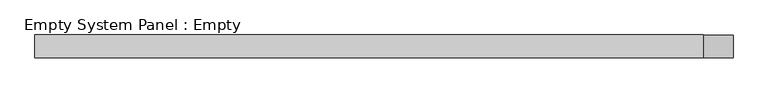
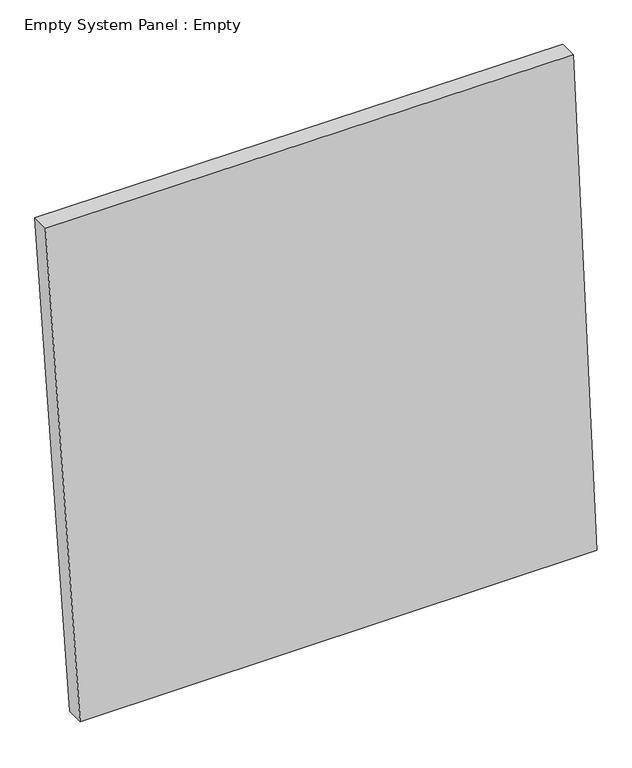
"""IFC4 building model written with IfcOpenShell, lengths in millimetres: plate geometry, Empty System Panel : Empty."""

from ifc_helpers import new_model, si_unit, frame, origin, place, context, project, spatial, polyline, outline, extrude, source, transform, mapped, element, save


def empty_system_panel_empty_95a5b1c6(model_context):
    return source(origin(), model_context, "Body", "SweptSolid", [
        extrude(outline(polyline([(0.0, -1354.8742576), (0.0, 1550.1054009), (2989.2017006, 1417.2194905), (2999.0427094, -1550.1054009), (0.0, -1354.8742576)])), frame((0.0, -50.8, 0.0), z_axis=(0.0, 1.0, 0.0), x_axis=(0.0, 0.0, 1.0)), (0.0, 0.0, 1.0), 101.6),
    ])


if __name__ == "__main__":
    model = new_model("IFC4")
    model_context = context("Model", 3, world=origin())
    ifc_project = project(units=[si_unit("LENGTHUNIT", "METRE", prefix="MILLI")], contexts=[model_context])
    site = spatial("IfcSite", under=ifc_project)
    building = spatial("IfcBuilding", under=site)
    placement = place(None, origin())
    empty_system_panel_empty_shape = empty_system_panel_empty_95a5b1c6(model_context)
    element("IfcPlate", 1, ObjectType="Empty System Panel : Empty", at=placement, inside=building, context=model_context, shape_type="MappedRepresentation", body=[
        mapped(empty_system_panel_empty_shape, transform((0.0, 0.0, 0.0), x_axis=(1.0, 0.0, 0.0), y_axis=(0.0, 1.0, 0.0), z_axis=(0.0, 0.0, 1.0))),
    ])
    save(model, "model.ifc")
